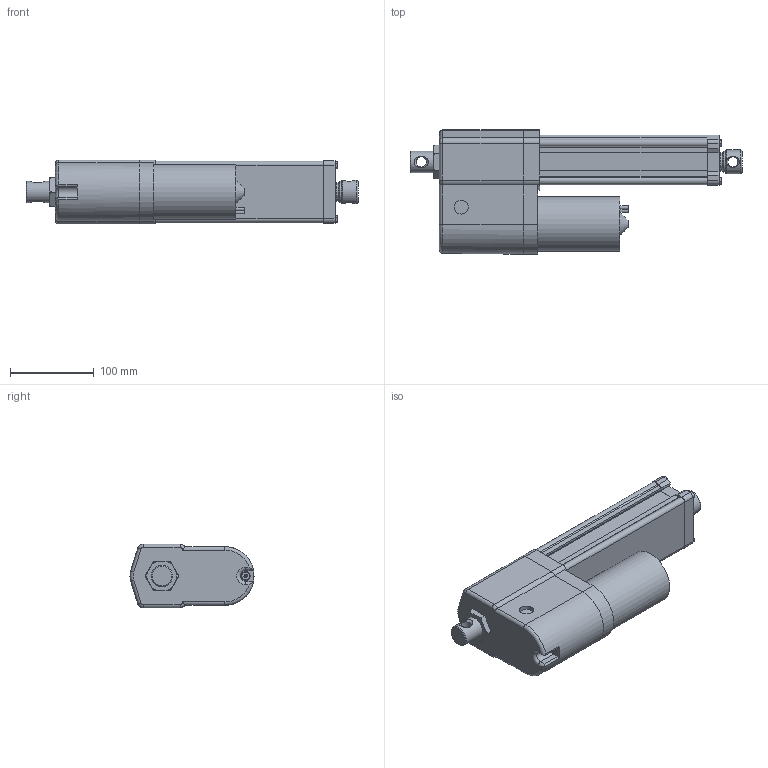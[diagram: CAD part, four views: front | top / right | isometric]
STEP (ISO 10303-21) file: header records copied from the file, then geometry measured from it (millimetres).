
FILE_DESCRIPTION( ( 'STEP AP203' ), '1' );
FILE_NAME( 'p:/temp/worker_280/temp/exporttempdir_4908_1604_0hK5M/format_0/DA12-05A65M15M0NPO-AMM.stp', '2020-04-12T18:17:47', ( 'License CC BY-ND 4.0' ), ( 'CADENAS' ), ' ', 'PARTsolutions', ' ' );
FILE_SCHEMA( ( 'CONFIG_CONTROL_DESIGN' ) );
Length unit declared in the file: millimetre
Products named in the file (8): DA12-05A65M15M0NPO-AMM; _ELECTRAK-LA14-DA12-05A65MM0NPO-15M-EU-REAR; _Electrak-10-EU-RA-D602700; _D602768eu; _ELECTRAK-LA14-DA12--MOTOR; _DA12-05A65M15M0NPOAMMtube; _ELECTRAK-LA14-DA12--15-PLATE; _ELECTRAK-LA14-DA12--1505A65MNPOM-ROD
Assembly tree (7 placements, depth 2):
  DA12-05A65M15M0NPO-AMM
    _ELECTRAK-LA14-DA12-05A65MM0NPO-15M-EU-REAR
    _Electrak-10-EU-RA-D602700
    _D602768eu
    _ELECTRAK-LA14-DA12--MOTOR
    _DA12-05A65M15M0NPOAMMtube
    _ELECTRAK-LA14-DA12--15-PLATE
    _ELECTRAK-LA14-DA12--1505A65MNPOM-ROD
Bounding box: 396.05 x 148 x 76.2 mm (x, y, z)
Volume: 1896656.3 mm3; surface area: 289781.6 mm2
Topology: 7 solids, 8 shells, 378 faces, 942 edges, 611 vertices
Faces by surface type: plane 184, cylinder 131, cone 45, torus 14, bspline 4
Full cylindrical faces by diameter (mm): 4 x2, 4.126 x1, 4.8 x5, 5 x5, 5.6 x4, 7.878 x4, 9.398 x1, 12.2 x2, 16 x1, 16.5 x1, 21.8 x1, 25.2 x1, 25.4 x1, 26.24 x1, 28.5 x1, 28.6 x2, 47.625 x1, 65.3 x1
Entity records: 11834 total; most frequent: CARTESIAN_POINT 2729, DIRECTION 1869, ORIENTED_EDGE 1744, EDGE_CURVE 872, AXIS2_PLACEMENT_3D 702, VERTEX_POINT 602, EDGE_LOOP 485, LINE 465
